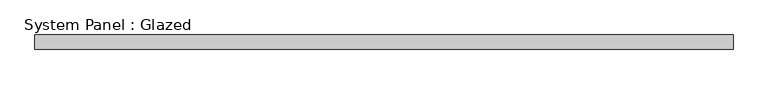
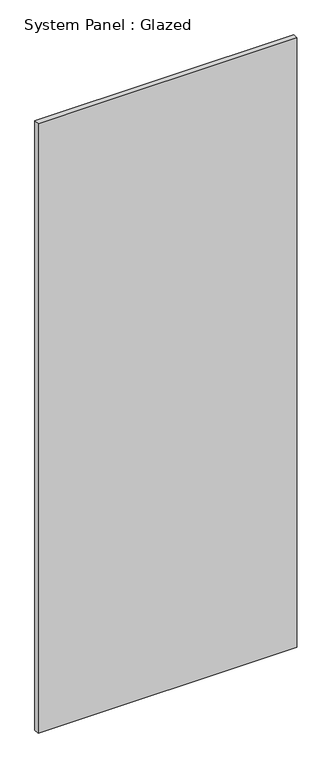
"""IFC4 building model written with IfcOpenShell, lengths in millimetres: plate geometry, System Panel : Glazed."""

from ifc_helpers import new_model, si_unit, origin, origin_with_axes, place, context, project, spatial, polyline, outline, extrude, source, transform, mapped, element, save


def system_panel_glazed_52484c66(model_context):
    return source(origin(), model_context, "Body", "SweptSolid", [
        extrude(outline(polyline([(612.3621495, -44.45), (-612.3621495, -44.45), (-612.3621495, -19.05), (612.3621495, -19.05), (612.3621495, -44.45)])), origin_with_axes(), (0.0, 0.0, 1.0), 3048.0),
    ])


if __name__ == "__main__":
    model = new_model("IFC4")
    model_context = context("Model", 3, world=origin())
    ifc_project = project(units=[si_unit("LENGTHUNIT", "METRE", prefix="MILLI")], contexts=[model_context])
    site = spatial("IfcSite", under=ifc_project)
    building = spatial("IfcBuilding", under=site)
    placement = place(None, origin())
    system_panel_glazed_shape = system_panel_glazed_52484c66(model_context)
    element("IfcPlate", 1, ObjectType="System Panel : Glazed", at=placement, inside=building, context=model_context, shape_type="MappedRepresentation", body=[
        mapped(system_panel_glazed_shape, transform((0.0, 0.0, 0.0), x_axis=(1.0, 0.0, 0.0), y_axis=(0.0, 1.0, 0.0), z_axis=(0.0, 0.0, 1.0))),
    ])
    save(model, "model.ifc")
